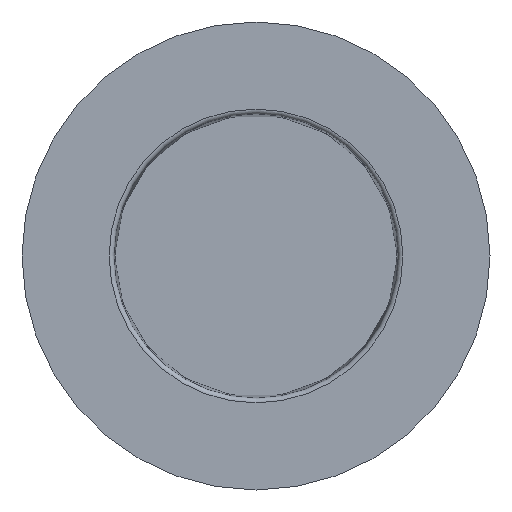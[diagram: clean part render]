
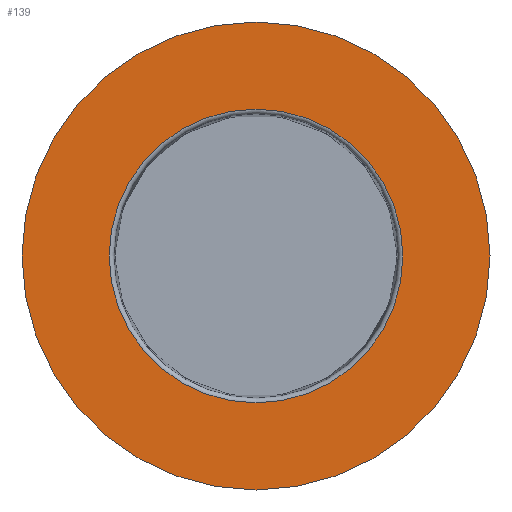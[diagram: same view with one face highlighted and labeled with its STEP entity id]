
A CAD part, front view. The second image highlights one B-rep face of the part: STEP entity #139.
In plain terms, the highlighted planar face has unit normal (0, -1, 0).
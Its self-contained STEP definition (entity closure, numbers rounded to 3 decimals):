
#139=ADVANCED_FACE('',(#286,#288),#290,.T.);
#286=FACE_BOUND('',#287,.T.);
#287=EDGE_LOOP('',(#381));
#288=FACE_BOUND('',#289,.T.);
#289=EDGE_LOOP('',(#382));
#290=PLANE('',#291);
#291=AXIS2_PLACEMENT_3D('',#292,#293,#294);
#292=CARTESIAN_POINT('',(0.,0.,0.));
#293=DIRECTION('',(-0.,-1.,-0.));
#294=DIRECTION('',(-1.,0.,0.));
#381=ORIENTED_EDGE('',*,*,#424,.F.);
#382=ORIENTED_EDGE('',*,*,#425,.T.);
#424=EDGE_CURVE('',#468,#468,#469,.T.);
#425=EDGE_CURVE('',#470,#470,#471,.T.);
#468=VERTEX_POINT('',#562);
#469=CIRCLE('',#563,50.25);
#470=VERTEX_POINT('',#567);
#471=CIRCLE('',#568,31.535);
#562=CARTESIAN_POINT('',(-50.25,0.,0.));
#563=AXIS2_PLACEMENT_3D('',#564,#565,#566);
#564=CARTESIAN_POINT('',(0.,0.,0.));
#565=DIRECTION('',(0.,1.,0.));
#566=DIRECTION('',(-1.,0.,0.));
#567=CARTESIAN_POINT('',(-31.535,0.,0.));
#568=AXIS2_PLACEMENT_3D('',#569,#570,#571);
#569=CARTESIAN_POINT('',(0.,0.,0.));
#570=DIRECTION('',(0.,1.,0.));
#571=DIRECTION('',(-1.,0.,0.));
